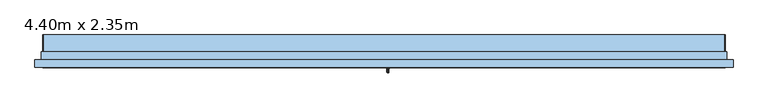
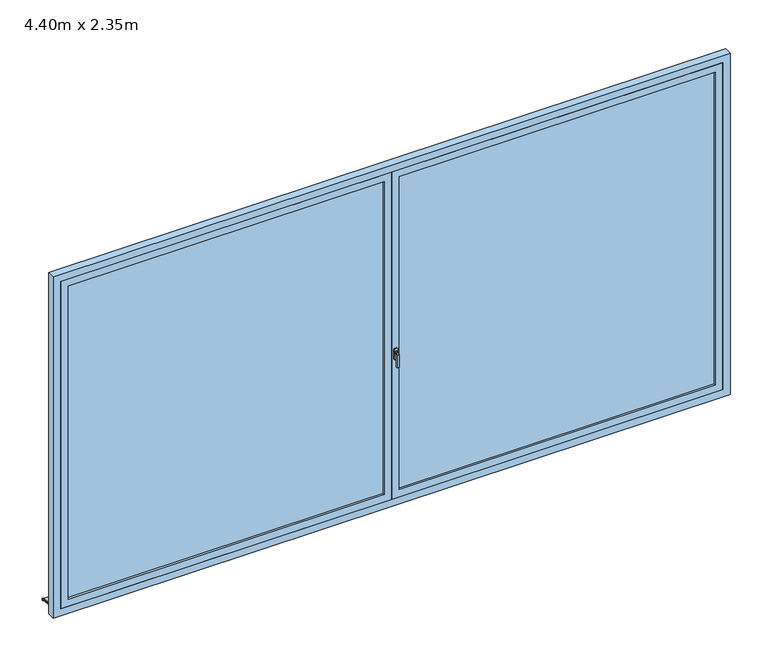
"""IFC4 building model written with IfcOpenShell, lengths in millimetres: window geometry, PF 2 Vantaux - Droits : 4.40m x 2.35m."""

from ifc_helpers import new_model, si_unit, point, frame, frame_2d, origin, place, context, project, spatial, polyline, circle_curve, trimmed, segment, composite_curve, outline, extrude, faceted_brep, source, transform, mapped, element, save


def window_4_40m_x_2_35m_32ff79ff(model_context):
    return source(origin(), model_context, "Body", "SolidModel", [
        faceted_brep([(30.6460097, -106.0, 1122.0339292), (32.0339292, -106.0, 1120.6460097), (32.0339292, -106.0, 1109.3323012), (30.6676988, -106.0, 1107.9660708), (19.3323012, -106.0, 1107.9660708), (17.9660708, -106.0, 1109.3323012), (17.9660708, -106.0, 1120.6460097), (19.3539903, -106.0, 1122.0339292), (30.6460097, -118.9135489, 1122.0339292), (32.0339292, -118.3386538, 1120.6460097), (32.0339292, -131.6460097, 1107.3386538), (32.0339292, -131.6460097, 1020.0), (32.0339292, -120.3323012, 1020.0), (32.0339292, -120.3323012, 1102.6523623), (32.0339292, -113.6523623, 1109.3323012), (30.6676988, -113.0864511, 1107.9660708), (19.3323012, -113.0864511, 1107.9660708), (17.9660708, -113.6523623, 1109.3323012), (17.9660708, -120.3323012, 1102.6523623), (17.9660708, -120.3323012, 1020.0), (17.9660708, -131.6460097, 1020.0), (17.9660708, -131.6460097, 1107.3386538), (17.9660708, -118.3386538, 1120.6460097), (19.3539903, -118.9135489, 1122.0339292), (30.6460097, -133.0339292, 1107.9135489), (30.6676988, -118.9660708, 1102.0864511), (19.3323012, -118.9660708, 1102.0864511), (19.3539903, -133.0339292, 1107.9135489), (30.6460097, -133.0339292, 1020.0), (19.3539903, -133.0339292, 1020.0), (19.3323012, -118.9660708, 1020.0), (30.6676988, -118.9660708, 1020.0)], [[[0, 1, 2, 3, 4, 5, 6, 7]], [[1, 0, 8, 9]], [[2, 1, 9, 10, 11, 12, 13, 14]], [[3, 2, 14, 15]], [[4, 3, 15, 16]], [[5, 4, 16, 17]], [[6, 5, 17, 18, 19, 20, 21, 22]], [[7, 6, 22, 23]], [[0, 7, 23, 8]], [[9, 8, 24, 10]], [[15, 14, 13, 25]], [[16, 15, 25, 26]], [[17, 16, 26, 18]], [[23, 22, 21, 27]], [[8, 23, 27, 24]], [[28, 29, 20, 19, 30, 31, 12, 11]], [[10, 24, 28, 11]], [[25, 13, 12, 31]], [[26, 25, 31, 30]], [[18, 26, 30, 19]], [[27, 21, 20, 29]], [[24, 27, 29, 28]]]),
        extrude(outline(polyline([(1140.0, 32.0), (1140.0, 18.0), (1135.0, 13.0), (1065.0, 13.0), (1060.0, 18.0), (1060.0, 32.0), (1065.0, 37.0), (1135.0, 37.0), (1140.0, 32.0)])), frame((0.0, -106.0, 0.0), z_axis=(0.0, 1.0, 0.0), x_axis=(0.0, 0.0, 1.0)), (0.0, 0.0, 1.0), 6.0),
        extrude(outline(polyline([(110.0288776, 26.588626), (110.0288776, 15.5104235), (105.0288776, 16.0359447), (105.0288776, 21.8589354), (-20.0, 35.0), (-20.0, 50.0), (-15.0, 50.0), (-15.0, 39.7296906), (110.0288776, 26.588626)])), frame((-2200.0, 0.0, 0.0), z_axis=(1.0, 0.0, 0.0), x_axis=(0.0, 1.0, 0.0)), (0.0, 0.0, 1.0), 4400.0),
        extrude(outline(composite_curve([segment(polyline([(110.0288776, 26.588626), (-15.0, 39.7296906), (-15.0, 44.757232), (106.4469915, 31.9926388)]), True, "CONTINUOUS"), segment(trimmed(circle_curve(frame_2d((106.0288776, 28.0145512)), 4.0), [point((106.4469915, 31.9926388))], [point((110.0288776, 28.0145512))], False, "CARTESIAN"), True, "CONTINUOUS"), segment(polyline([(110.0288776, 28.0145512), (110.0288776, 26.588626)]), True, "CONTINUOUS")], self_intersect=False)), frame((-2200.0, 0.0, 0.0), z_axis=(1.0, 0.0, 0.0), x_axis=(0.0, 1.0, 0.0)), (0.0, 0.0, 1.0), 5.0),
        extrude(outline(composite_curve([segment(polyline([(110.0288776, 26.588626), (-15.0, 39.7296906), (-15.0, 44.757232), (106.4469915, 31.9926388)]), True, "CONTINUOUS"), segment(trimmed(circle_curve(frame_2d((106.0288776, 28.0145512)), 4.0), [point((106.4469915, 31.9926388))], [point((110.0288776, 28.0145512))], False, "CARTESIAN"), True, "CONTINUOUS"), segment(polyline([(110.0288776, 28.0145512), (110.0288776, 26.588626)]), True, "CONTINUOUS")], self_intersect=False)), frame((2195.0, 0.0, 0.0), z_axis=(1.0, 0.0, 0.0), x_axis=(0.0, 1.0, 0.0)), (0.0, 0.0, 1.0), 5.0),
        extrude(outline(polyline([(85.0, 0.0), (2385.0, 0.0), (2385.0, -2200.0), (85.0, -2200.0), (85.0, 0.0)]), holes=[polyline([(135.0, -2150.0), (2335.0, -2150.0), (2335.0, -50.0), (135.0, -50.0), (135.0, -2150.0)])]), frame((0.0, -100.0, 0.0), z_axis=(0.0, 1.0, 0.0), x_axis=(0.0, 0.0, 1.0)), (0.0, 0.0, 1.0), 40.0),
        extrude(outline(polyline([(50.0, -74.0), (2150.0, -74.0), (2150.0, -86.0), (50.0, -86.0), (50.0, -74.0)])), frame((0.0, 0.0, 135.0), z_axis=(0.0, 0.0, 1.0), x_axis=(1.0, 0.0, 0.0)), (0.0, 0.0, 1.0), 2200.0),
        extrude(outline(polyline([(-2150.0, -74.0), (-50.0, -74.0), (-50.0, -86.0), (-2150.0, -86.0), (-2150.0, -74.0)])), frame((0.0, 0.0, 135.0), z_axis=(0.0, 0.0, 1.0), x_axis=(1.0, 0.0, 0.0)), (0.0, 0.0, 1.0), 2200.0),
        extrude(outline(polyline([(85.0, 2200.0), (2385.0, 2200.0), (2385.0, 0.0), (85.0, 0.0), (85.0, 2200.0)]), holes=[polyline([(135.0, 50.0), (2335.0, 50.0), (2335.0, 2150.0), (135.0, 2150.0), (135.0, 50.0)])]), frame((0.0, -100.0, 0.0), z_axis=(0.0, 1.0, 0.0), x_axis=(0.0, 0.0, 1.0)), (0.0, 0.0, 1.0), 40.0),
        faceted_brep([(-2250.0, -100.0, 35.0), (-2250.0, -50.0, 35.0), (-2200.0, -50.0, 35.0), (-2200.0, -20.0, 35.0), (2200.0, -20.0, 35.0), (2200.0, -50.0, 35.0), (2250.0, -50.0, 35.0), (2250.0, -100.0, 35.0), (-2250.0, -100.0, 2435.0), (-2250.0, -50.0, 2435.0), (2250.0, -50.0, 2435.0), (2200.0, -50.0, 74.3761425), (-2200.0, -50.0, 74.3761425), (-2185.0, -50.0, 2370.0), (-2185.0, -50.0, 100.0), (2185.0, -50.0, 100.0), (2185.0, -50.0, 2370.0), (-2200.0, 0.0, 60.9786829), (-2200.0, 0.0, 45.0), (-2200.0, -10.0, 45.0), (-2200.0, -10.0, 50.0), (-2200.0, -20.0, 50.0), (2200.0, -20.0, 50.0), (2200.0, -10.0, 50.0), (2200.0, -10.0, 45.0), (2200.0, 0.0, 45.0), (2200.0, 0.0, 60.9786829), (2250.0, -100.0, 2435.0), (2200.0, -100.0, 2385.0), (2200.0, -100.0, 85.0), (-2200.0, -100.0, 85.0), (-2200.0, -100.0, 2385.0), (-2185.0, -60.0, 2370.0), (-2185.0, -60.0, 100.0), (2185.0, -60.0, 100.0), (2185.0, -60.0, 2370.0), (2200.0, -60.0, 2385.0), (-2200.0, -60.0, 2385.0), (-2200.0, -60.0, 85.0), (2200.0, -60.0, 85.0)], [[[0, 1, 2, 3, 4, 5, 6, 7]], [[1, 0, 8, 9]], [[1, 9, 10, 6, 5, 11, 12, 2], [13, 14, 15, 16]], [[12, 17, 18, 19, 20, 21, 3, 2]], [[3, 21, 22, 4]], [[4, 22, 23, 24, 25, 26, 11, 5]], [[6, 10, 27, 7]], [[0, 7, 27, 8], [28, 29, 30, 31]], [[13, 32, 33, 14]], [[33, 34, 15, 14]], [[35, 16, 15, 34]], [[17, 12, 11, 26]], [[36, 37, 38, 39], [32, 35, 34, 33]], [[38, 37, 31, 30]], [[30, 29, 39, 38]], [[28, 36, 39, 29]], [[18, 17, 26, 25]], [[19, 18, 25, 24]], [[20, 19, 24, 23]], [[21, 20, 23, 22]], [[13, 16, 35, 32]], [[10, 9, 8, 27]], [[37, 36, 28, 31]]]),
        extrude(outline(polyline([(35.0, -2210.0), (35.0, -2200.0), (2385.0, -2200.0), (2385.0, 2200.0), (35.0, 2200.0), (35.0, 2210.0), (2395.0, 2210.0), (2395.0, -2210.0), (35.0, -2210.0)])), frame((0.0, -50.0, 0.0), z_axis=(0.0, 1.0, 0.0), x_axis=(0.0, 0.0, 1.0)), (0.0, 0.0, 1.0), 50.0),
        extrude(outline(polyline([(20.0, -52.0), (20.0, -60.0), (-20.0, -60.0), (-20.0, -52.0), (20.0, -52.0)])), frame((0.0, 0.0, 100.0), z_axis=(0.0, 0.0, 1.0), x_axis=(1.0, 0.0, 0.0)), (0.0, 0.0, 1.0), 2270.0),
    ])


if __name__ == "__main__":
    model = new_model("IFC4")
    model_context = context("Model", 3, world=origin())
    ifc_project = project(units=[si_unit("LENGTHUNIT", "METRE", prefix="MILLI")], contexts=[model_context])
    site = spatial("IfcSite", under=ifc_project)
    building = spatial("IfcBuilding", under=site)
    placement = place(None, origin())
    window_4_40m_x_2_35m_shape = window_4_40m_x_2_35m_32ff79ff(model_context)
    element("IfcWindow", 1, ObjectType="PF 2 Vantaux - Droits : 4.40m x 2.35m", at=placement, inside=building, context=model_context, shape_type="MappedRepresentation", body=[
        mapped(window_4_40m_x_2_35m_shape, transform((0.0, 0.0, 0.0), x_axis=(1.0, 0.0, 0.0), y_axis=(0.0, 1.0, 0.0), z_axis=(0.0, 0.0, 1.0))),
    ])
    save(model, "model.ifc")
